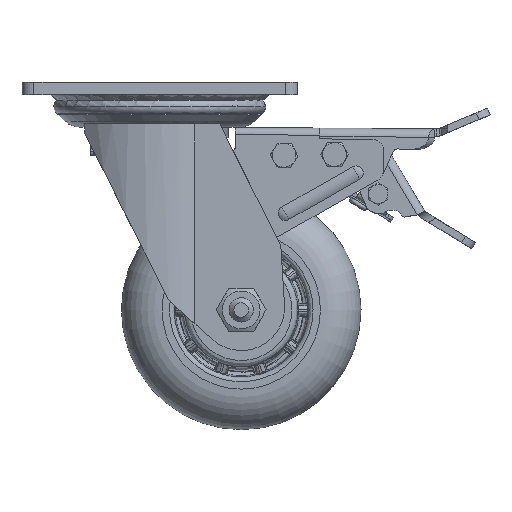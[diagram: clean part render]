
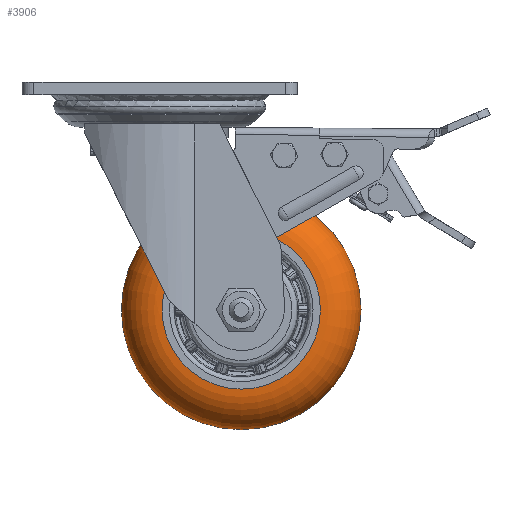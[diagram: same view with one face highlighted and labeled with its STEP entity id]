
A CAD part, front view. The second image highlights one B-rep face of the part: STEP entity #3906.
In plain terms, the highlighted toroidal (fillet/blend) face has major radius 33.066 mm and minor radius 16.934 mm.
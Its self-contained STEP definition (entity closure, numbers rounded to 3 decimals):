
#470=TOROIDAL_SURFACE('',#25653,33.066,16.934);
#3906=ADVANCED_FACE('',(#7097,#7098),#470,.T.);
#6608=CIRCLE('',#25648,50.);
#6610=CIRCLE('',#25652,33.066);
#7097=FACE_BOUND('',#8315,.T.);
#7098=FACE_BOUND('',#8316,.T.);
#8315=EDGE_LOOP('',(#13343));
#8316=EDGE_LOOP('',(#13344));
#13343=ORIENTED_EDGE('',*,*,#20376,.F.);
#13344=ORIENTED_EDGE('',*,*,#20378,.F.);
#17414=VERTEX_POINT('',#54617);
#17416=VERTEX_POINT('',#54623);
#20376=EDGE_CURVE('',#17414,#17414,#6608,.T.);
#20378=EDGE_CURVE('',#17416,#17416,#6610,.T.);
#25648=AXIS2_PLACEMENT_3D('',#54616,#29858,#29859);
#25652=AXIS2_PLACEMENT_3D('',#54622,#29866,#29867);
#25653=AXIS2_PLACEMENT_3D('',#54624,#29868,#29869);
#29858=DIRECTION('',(0.,1.,0.));
#29859=DIRECTION('',(-1.,0.,0.));
#29866=DIRECTION('',(0.,-1.,0.));
#29867=DIRECTION('',(1.,0.,0.));
#29868=DIRECTION('',(0.,-1.,0.));
#29869=DIRECTION('',(-1.,0.,0.));
#54616=CARTESIAN_POINT('',(34.,-5.566,-95.));
#54617=CARTESIAN_POINT('',(-16.,-5.566,-95.));
#54622=CARTESIAN_POINT('',(34.,-22.5,-95.));
#54623=CARTESIAN_POINT('',(67.066,-22.5,-95.));
#54624=CARTESIAN_POINT('',(34.,-5.566,-95.));
